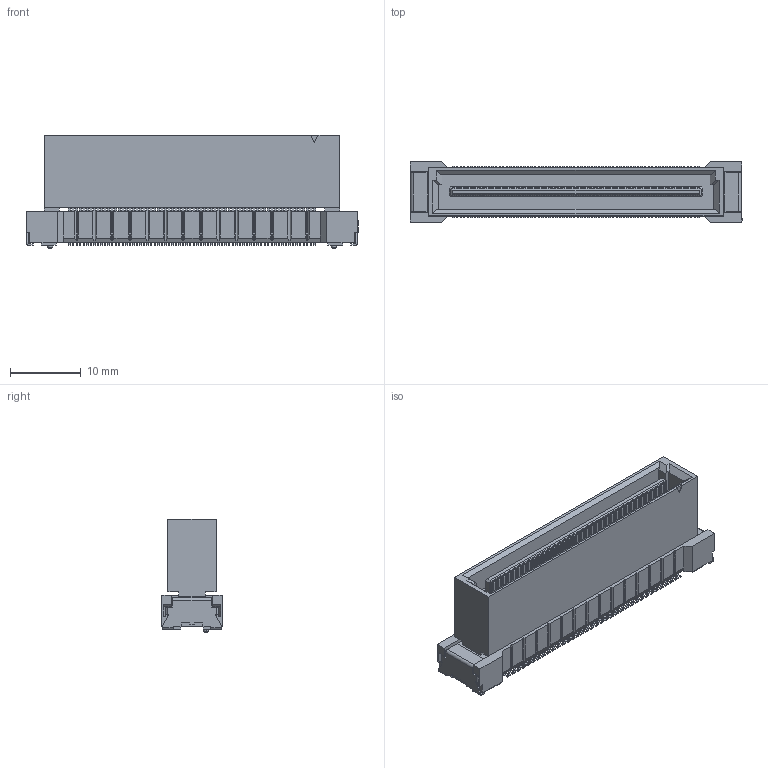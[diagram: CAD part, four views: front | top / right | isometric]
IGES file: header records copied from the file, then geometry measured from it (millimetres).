
Start section: Elysium IGES Interface
Global section: file name: 146HG:\その他\DT関連\【59期以前】\DT_CADﾃﾞｰﾀ\DT_3DCAD\DT0□\FS-10\60-36-0113_WEBサイトアップロード用\ボス有り_DT01-XXXFS-10\P3E104_DT01-140FS-10-T.igs; native system: Creo Elements/Direct Modeling 20.4A  18-Oct-2021; preprocessor: Creo Element/Direct IGES_3D V2.2; author: Unknown; organization: Unknown; date: 20220225.172020; units: millimetre
Bounding box: 46.8 x 8.5 x 15.95 mm (x, y, z)
Volume: 3750.5 mm3; surface area: 3659.8 mm2
Topology: 1 solids, 1 shells, 3875 faces, 10877 edges, 7146 vertices
Faces by surface type: bspline 3875
